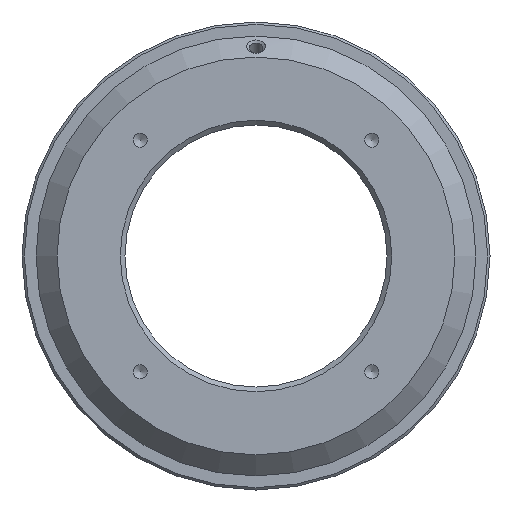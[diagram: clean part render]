
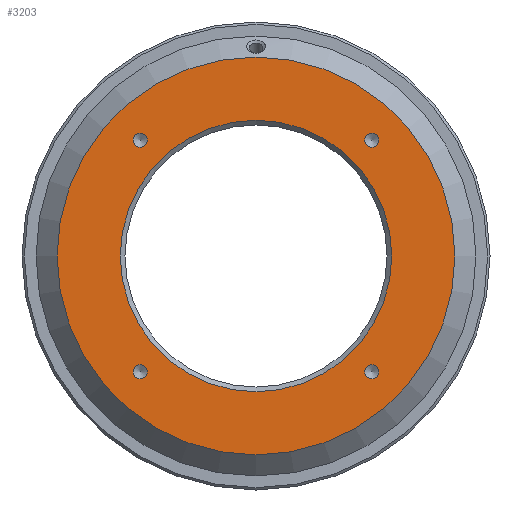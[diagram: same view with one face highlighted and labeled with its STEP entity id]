
A CAD part, front view. The second image highlights one B-rep face of the part: STEP entity #3203.
In plain terms, the highlighted planar face has unit normal (0, -1, 0).
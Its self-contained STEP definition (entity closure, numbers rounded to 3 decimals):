
#3108=CARTESIAN_POINT('',(-29.,0.,0.));
#3109=VERTEX_POINT('',#3108);
#3110=CARTESIAN_POINT('',(0.0,0.,0.0));
#3111=DIRECTION('',(0.0,-1.0,0.0));
#3112=DIRECTION('',(1.0,0.0,0.0));
#3113=AXIS2_PLACEMENT_3D('',#3110,#3111,#3112);
#3114=CIRCLE('',#3113,29.);
#3115=EDGE_CURVE('',#3109,#3109,#3114,.T.);
#3140=CARTESIAN_POINT('',(-35.25,0.,0.0));
#3141=DIRECTION('',(0.0,-1.0,0.0));
#3142=DIRECTION('',(0.0,0.0,-1.0));
#3143=AXIS2_PLACEMENT_3D('',#3140,#3141,#3142);
#3144=PLANE('',#3143);
#3145=CARTESIAN_POINT('',(-42.5,0.,0.0));
#3146=VERTEX_POINT('',#3145);
#3147=CARTESIAN_POINT('',(0.0,0.,0.0));
#3148=DIRECTION('',(0.0,1.0,0.0));
#3149=DIRECTION('',(-1.0,0.0,0.0));
#3150=AXIS2_PLACEMENT_3D('',#3147,#3148,#3149);
#3151=CIRCLE('',#3150,42.5);
#3152=EDGE_CURVE('',#3146,#3146,#3151,.T.);
#3153=ORIENTED_EDGE('',*,*,#3152,.F.);
#3154=EDGE_LOOP('',(#3153));
#3155=FACE_OUTER_BOUND('',#3154,.T.);
#3156=CARTESIAN_POINT('',(26.249,0.,-24.749));
#3157=VERTEX_POINT('',#3156);
#3158=CARTESIAN_POINT('',(24.749,0.,-24.749));
#3159=DIRECTION('',(0.0,1.0,0.0));
#3160=DIRECTION('',(1.0,0.0,0.0));
#3161=AXIS2_PLACEMENT_3D('',#3158,#3159,#3160);
#3162=CIRCLE('',#3161,1.5);
#3163=EDGE_CURVE('',#3157,#3157,#3162,.T.);
#3164=ORIENTED_EDGE('',*,*,#3163,.T.);
#3165=EDGE_LOOP('',(#3164));
#3166=FACE_BOUND('',#3165,.T.);
#3167=CARTESIAN_POINT('',(-24.749,0.,-26.249));
#3168=VERTEX_POINT('',#3167);
#3169=CARTESIAN_POINT('',(-24.749,0.,-24.749));
#3170=DIRECTION('',(0.0,1.0,0.0));
#3171=DIRECTION('',(0.0,0.0,-1.0));
#3172=AXIS2_PLACEMENT_3D('',#3169,#3170,#3171);
#3173=CIRCLE('',#3172,1.5);
#3174=EDGE_CURVE('',#3168,#3168,#3173,.T.);
#3175=ORIENTED_EDGE('',*,*,#3174,.T.);
#3176=EDGE_LOOP('',(#3175));
#3177=FACE_BOUND('',#3176,.T.);
#3178=CARTESIAN_POINT('',(-26.249,0.,24.749));
#3179=VERTEX_POINT('',#3178);
#3180=CARTESIAN_POINT('',(-24.749,0.,24.749));
#3181=DIRECTION('',(0.0,1.0,0.0));
#3182=DIRECTION('',(-1.0,0.0,0.0));
#3183=AXIS2_PLACEMENT_3D('',#3180,#3181,#3182);
#3184=CIRCLE('',#3183,1.5);
#3185=EDGE_CURVE('',#3179,#3179,#3184,.T.);
#3186=ORIENTED_EDGE('',*,*,#3185,.T.);
#3187=EDGE_LOOP('',(#3186));
#3188=FACE_BOUND('',#3187,.T.);
#3189=CARTESIAN_POINT('',(24.749,0.,26.249));
#3190=VERTEX_POINT('',#3189);
#3191=CARTESIAN_POINT('',(24.749,0.,24.749));
#3192=DIRECTION('',(0.0,1.0,0.0));
#3193=DIRECTION('',(0.0,0.0,1.0));
#3194=AXIS2_PLACEMENT_3D('',#3191,#3192,#3193);
#3195=CIRCLE('',#3194,1.5);
#3196=EDGE_CURVE('',#3190,#3190,#3195,.T.);
#3197=ORIENTED_EDGE('',*,*,#3196,.T.);
#3198=EDGE_LOOP('',(#3197));
#3199=FACE_BOUND('',#3198,.T.);
#3200=ORIENTED_EDGE('',*,*,#3115,.F.);
#3201=EDGE_LOOP('',(#3200));
#3202=FACE_BOUND('',#3201,.T.);
#3203=ADVANCED_FACE('',(#3155,#3166,#3177,#3188,#3199,#3202),#3144,.T.);
